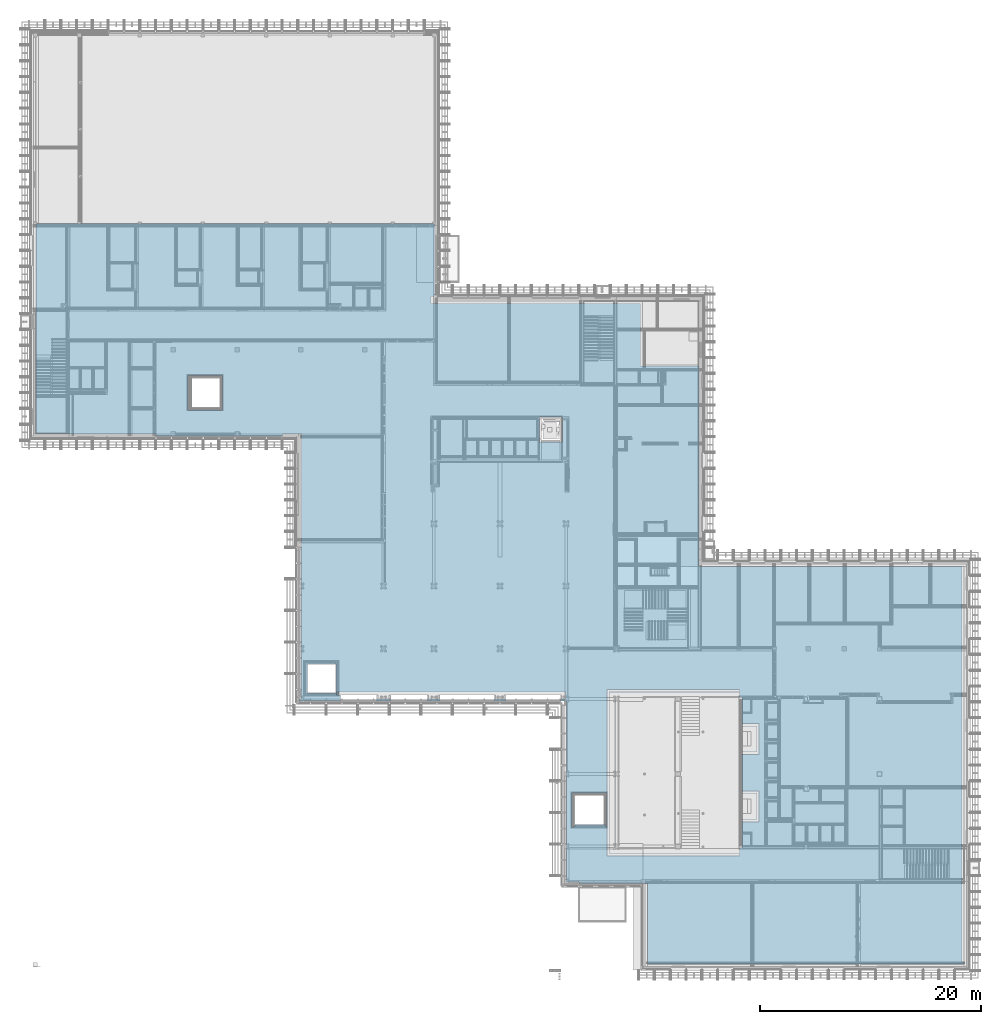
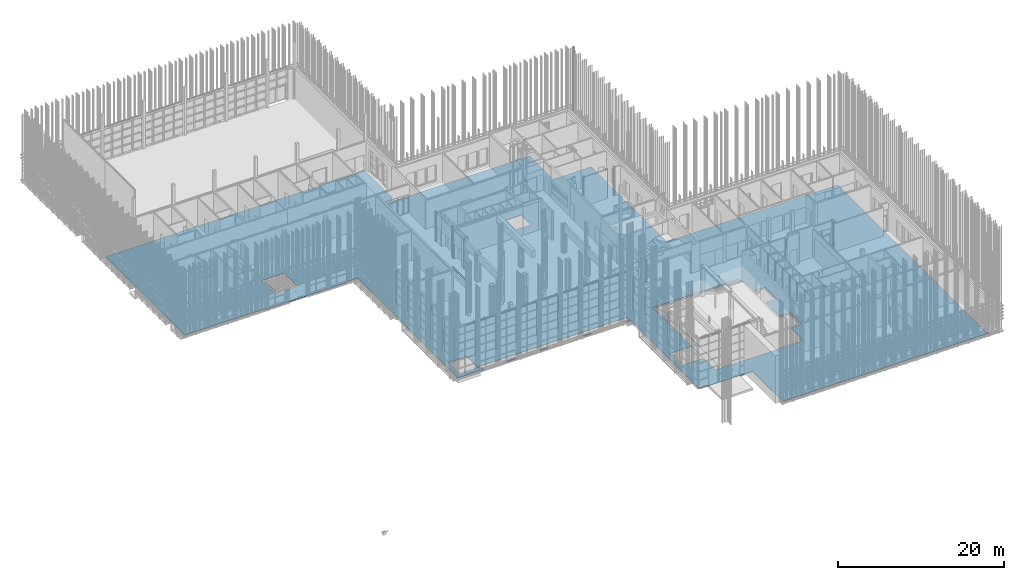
# One storey, part 168 of 260: 1 building element part, 1 element without a shape of its own.
"""IFC2X3 building model written with IfcOpenShell, lengths in millimetres."""

import ifcopenshell
import ifcopenshell.guid

model = None  # the IFC model being written
_history = None  # IfcOwnerHistory: only IFC2X3 demands one
_inside = {}  # id of a spatial element -> (the spatial element, [elements in it])
_under = {}  # id of a project, library or spatial element -> (it, [spatial elements below it])
_declared = {}  # id of a project -> (the project, [libraries it declares])
_typed = {}  # id of a type object -> (the type object, [elements of that type])
_made_of = {}  # id of a material, layer set ... -> (it, [elements and type objects made of it])


def new_model(schema):
    """Start an empty IFC model of exactly this schema.

    Asked for "IFC4X3", IfcOpenShell would pick the latest addendum, in which some entities
    have other attributes; the version numbers below select the first issue.
    IFC2X3 requires an IfcOwnerHistory on every rooted entity: one is made here for all.
    """
    global model, _history
    if schema == "IFC4X3":
        model = ifcopenshell.file(schema_version=(4, 3, 0, 0))
    else:
        model = ifcopenshell.file(schema=schema)
    _inside.clear()
    _under.clear()
    _declared.clear()
    _typed.clear()
    _made_of.clear()
    _history = None
    if model.schema == "IFC2X3":
        org = make("IfcOrganization", Name="unknown")
        user = make(
            "IfcPersonAndOrganization",
            ThePerson=make("IfcPerson", FamilyName="unknown"),
            TheOrganization=org,
        )
        app = make(
            "IfcApplication",
            ApplicationDeveloper=org,
            Version="unknown",
            ApplicationFullName="unknown",
            ApplicationIdentifier="unknown",
        )
        _history = make(
            "IfcOwnerHistory",
            OwningUser=user,
            OwningApplication=app,
            ChangeAction="ADDED",
            CreationDate=0,
        )
    return model


def make(cls, **values):
    """One entity of the class cls with the attributes given. An attribute that is None is left unset."""
    return model.create_entity(
        cls, **{name: value for name, value in values.items() if value is not None}
    )


def entity(cls, *values):
    """Any entity or typed value of the class cls, its attributes in the order of the schema. None: left unset."""
    e = model.create_entity(cls)
    for i, value in enumerate(values):
        if value is not None:
            e[i] = value
    return e


def rooted(cls, **values):
    """An entity with a GlobalId (a new one), such as an element, a storey or a relation."""
    return make(cls, GlobalId=ifcopenshell.guid.new(), OwnerHistory=_history, **values)


def si_unit(unit_type, name, prefix=None):
    """IfcSIUnit, for example si_unit("LENGTHUNIT", "METRE", prefix="MILLI")."""
    return make("IfcSIUnit", UnitType=unit_type, Prefix=prefix, Name=name)


def converted_unit(unit_type, name, factor, base, dimensions=None, offset=None):
    """IfcConversionBasedUnit, such as the inch: factor (a typed value) times the base unit."""
    return make(
        "IfcConversionBasedUnit"
        if offset is None
        else "IfcConversionBasedUnitWithOffset",
        ConversionOffset=offset,
        Dimensions=None
        if dimensions is None
        else entity("IfcDimensionalExponents", *dimensions),
        UnitType=unit_type,
        Name=name,
        ConversionFactor=make(
            "IfcMeasureWithUnit", ValueComponent=factor, UnitComponent=base
        ),
    )


def derived_unit(unit_type, elements):
    """IfcDerivedUnit: a product of units, each with its exponent."""
    return make(
        "IfcDerivedUnit",
        Elements=[
            make("IfcDerivedUnitElement", Unit=unit, Exponent=power)
            for unit, power in elements
        ],
        UnitType=unit_type,
    )


def money_unit(currency):
    """IfcMonetaryUnit."""
    return make("IfcMonetaryUnit", Currency=currency)


def assignment(units):
    """IfcUnitAssignment: the units of a project."""
    return None if units is None else make("IfcUnitAssignment", Units=units)


def point(xyz):
    """IfcCartesianPoint."""
    return None if xyz is None else make("IfcCartesianPoint", Coordinates=xyz)


def direction(xyz):
    """IfcDirection."""
    return None if xyz is None else make("IfcDirection", DirectionRatios=xyz)


def frame(location, z_axis=None, x_axis=None):
    """IfcAxis2Placement3D, a coordinate frame: its origin and axes. An axis left out is left unset."""
    return make(
        "IfcAxis2Placement3D",
        Location=point(location),
        Axis=direction(z_axis),
        RefDirection=direction(x_axis),
    )


def origin_with_axes():
    """The frame at (0, 0, 0) with the z axis (0, 0, 1) and the x axis (1, 0, 0) written out."""
    return frame((0.0, 0.0, 0.0), z_axis=(0.0, 0.0, 1.0), x_axis=(1.0, 0.0, 0.0))


def place(relative_to, where):
    """IfcLocalPlacement: puts the frame where relative to a parent placement (None: the world)."""
    return make(
        "IfcLocalPlacement", PlacementRelTo=relative_to, RelativePlacement=where
    )


def context(
    kind, dimensions, precision=None, world=None, true_north=None, identifier=None
):
    """IfcGeometricRepresentationContext, for example the 3D "Model" context."""
    return make(
        "IfcGeometricRepresentationContext",
        ContextIdentifier=identifier,
        ContextType=kind,
        CoordinateSpaceDimension=dimensions,
        Precision=precision,
        WorldCoordinateSystem=world,
        TrueNorth=true_north,
    )


def subcontext(parent, identifier, kind, view, scale=None):
    """IfcGeometricRepresentationSubContext, for example "Body" below "Model"."""
    return make(
        "IfcGeometricRepresentationSubContext",
        ContextIdentifier=identifier,
        ContextType=kind,
        ParentContext=parent,
        TargetScale=scale,
        TargetView=view,
    )


def project(units=None, contexts=None):
    """IfcProject with its units and contexts."""
    return rooted(
        "IfcProject",
        Name="project",
        RepresentationContexts=contexts,
        UnitsInContext=assignment(units),
    )


def spatial(cls, under=None, at=None, **own):
    """A site, building, storey or space (cls), placed at a placement, below another one or the project."""
    s = rooted(cls, ObjectPlacement=at, **own)
    if under is not None:
        _under.setdefault(under.id(), (under, []))[1].append(s)
    return s


def faces_of(points, faces, orient=None, outer=None):
    """IfcFace entities. A face is a list of loops; a loop is a list of indices into points, from 0.

    orient and outer hold one flag for each loop. By default every Orientation is true, the
    first loop of a face is its IfcFaceOuterBound and the others are IfcFaceBound.
    """
    made = []
    for i, loops in enumerate(faces):
        bounds = []
        for j, loop in enumerate(loops):
            is_outer = j == 0 if outer is None else outer[i][j]
            bounds.append(
                make(
                    "IfcFaceOuterBound" if is_outer else "IfcFaceBound",
                    Bound=make("IfcPolyLoop", Polygon=[points[k] for k in loop]),
                    Orientation=True if orient is None else orient[i][j],
                )
            )
        made.append(make("IfcFace", Bounds=bounds))
    return made


def faceted_brep(points, faces, orient=None, outer=None, voids=None):
    """IfcFacetedBrep: a solid bounded by flat faces; with voids (closed shells), ...WithVoids."""
    shared = [point(p) for p in points]
    hull = make("IfcClosedShell", CfsFaces=faces_of(shared, faces, orient, outer))
    if voids is None:
        return make("IfcFacetedBrep", Outer=hull)
    return make(
        "IfcFacetedBrepWithVoids",
        Outer=hull,
        Voids=[
            make(cls, CfsFaces=faces_of(shared, fs, o, b)) for cls, fs, o, b in voids
        ],
    )


def shape(context_of_items, identifier, shape_type, items):
    """IfcShapeRepresentation: the items that make up one representation, for example the "Body"."""
    return make(
        "IfcShapeRepresentation",
        ContextOfItems=context_of_items,
        RepresentationIdentifier=identifier,
        RepresentationType=shape_type,
        Items=items,
    )


def material(Name=None, Category=None):
    """IfcMaterial."""
    return make("IfcMaterial", Name=Name, Category=Category)


def made_of(thing, what):
    """Note that an element or type object is made of a material, layer set ...; save() writes the relation."""
    if what is not None:
        _made_of.setdefault(what.id(), (what, []))[1].append(thing)
    return thing


def type_object(cls, material=None, **own):
    """A type object (cls), such as IfcWallType, which elements share."""
    return made_of(rooted(cls, **own), material)


def element(
    cls,
    number,
    at=None,
    inside=None,
    cuts=None,
    type_object=None,
    material=None,
    context=None,
    identifier="Body",
    shape_type=None,
    held_by="IfcProductDefinitionShape",
    body=None,
    shapes=None,
    **own,
):
    """One element of the class cls, such as IfcWall. Its Tag is "e" and its number.

    at: its placement. inside: the storey or other place that contains it. cuts: it is an
    opening in that element (IfcRelVoidsElement). A single representation is given by context,
    identifier, shape_type and body (its items); several are given by shapes. held_by: the class
    of the entity that holds the representations. save() writes the other relations.
    """
    e = rooted(cls, Tag="e%d" % number, ObjectPlacement=at, **own)
    if body is not None:
        shapes = [shape(context, identifier, shape_type, body)]
    if shapes is not None:
        e.Representation = make(held_by, Representations=shapes)
    if inside is not None:
        _inside.setdefault(inside.id(), (inside, []))[1].append(e)
    if cuts is not None:
        rooted(
            "IfcRelVoidsElement", RelatingBuildingElement=cuts, RelatedOpeningElement=e
        )
    if type_object is not None:
        _typed.setdefault(type_object.id(), (type_object, []))[1].append(e)
    return made_of(e, material)


def aggregate(whole, parts):
    """IfcRelAggregates: a whole, such as a stair, and the parts it consists of."""
    return rooted("IfcRelAggregates", RelatingObject=whole, RelatedObjects=parts)


def save(model, path):
    """Write the relations noted so far, then the file.

    IfcRelAggregates (storeys below a building ...), IfcRelContainedInSpatialStructure (elements
    in a storey), IfcRelDefinesByType, IfcRelAssociatesMaterial and IfcRelDeclares: one each for
    every whole, place, type object, material and project.
    """
    for whole, parts in _under.values():
        aggregate(whole, parts)
    for where, things in _inside.values():
        rooted(
            "IfcRelContainedInSpatialStructure",
            RelatedElements=things,
            RelatingStructure=where,
        )
    for kind, things in _typed.values():
        rooted("IfcRelDefinesByType", RelatedObjects=things, RelatingType=kind)
    for what, things in _made_of.values():
        rooted("IfcRelAssociatesMaterial", RelatedObjects=things, RelatingMaterial=what)
    for by, libraries in _declared.values():
        rooted("IfcRelDeclares", RelatingContext=by, RelatedDefinitions=libraries)
    model.write(path)


model = new_model("IFC2X3")

# Units and contexts
model_context = context("Model", 3, precision=0.01, world=origin_with_axes(), true_north=direction((0.0, 1.0)))
body_context = subcontext(model_context, "Body", "Model", "MODEL_VIEW")
ifc_project = project(units=[si_unit("LENGTHUNIT", "METRE", prefix="MILLI"), si_unit("AREAUNIT", "SQUARE_METRE"), si_unit("VOLUMEUNIT", "CUBIC_METRE"), converted_unit("PLANEANGLEUNIT", "DEGREE", entity("IfcPlaneAngleMeasure", 0.0174532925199), si_unit("PLANEANGLEUNIT", "RADIAN"), dimensions=[0, 0, 0, 0, 0, 0, 0]), money_unit("EUR"), converted_unit("TIMEUNIT", "Year", entity("IfcTimeMeasure", 31556926.0), si_unit("TIMEUNIT", "SECOND"), dimensions=[0, 0, 1, 0, 0, 0, 0]), si_unit("MASSUNIT", "GRAM", prefix="KILO"), si_unit("THERMODYNAMICTEMPERATUREUNIT", "DEGREE_CELSIUS"), si_unit("LUMINOUSINTENSITYUNIT", "LUMEN"), si_unit("ENERGYUNIT", "JOULE", prefix="MEGA"), derived_unit("THERMALCONDUCTANCEUNIT", [(si_unit("POWERUNIT", "WATT"), 1), (si_unit("LENGTHUNIT", "METRE"), -1), (si_unit("THERMODYNAMICTEMPERATUREUNIT", "KELVIN"), -1)]), derived_unit("SPECIFICHEATCAPACITYUNIT", [(si_unit("ENERGYUNIT", "JOULE"), 1), (si_unit("MASSUNIT", "GRAM", prefix="KILO"), -1), (si_unit("THERMODYNAMICTEMPERATUREUNIT", "KELVIN"), -1)]), derived_unit("MASSDENSITYUNIT", [(si_unit("MASSUNIT", "GRAM", prefix="KILO"), 1), (si_unit("VOLUMEUNIT", "CUBIC_METRE"), -1)])], contexts=[model_context])

# Site, building, storey
site_placement = place(None, origin_with_axes())
site = spatial("IfcSite", under=ifc_project, at=site_placement, Name="Kolde pst 67a", CompositionType="ELEMENT")
building_placement = place(site_placement, origin_with_axes())
building = spatial("IfcBuilding", under=site, at=building_placement, Name="Riigigümnaasium", CompositionType="ELEMENT")
storey_placement = place(building_placement, origin_with_axes())
storey = spatial("IfcBuildingStorey", under=building, at=storey_placement, Name="1. korrus", CompositionType="ELEMENT", Elevation=0.0)

# Slab, building element part
slab_type = type_object("IfcSlabType", Name="PP-RBM-10/1_EPS 200 500", PredefinedType="NOTDEFINED")
slab_placement = place(storey_placement, frame((266.322784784, 67249.9971514, 0.0), z_axis=(0.0, 0.0, 1.0), x_axis=(1.0, 0.0, 0.0)))
slab = element("IfcSlab", 1, at=slab_placement, inside=storey, type_object=slab_type, Name="Põrand pinnasel", PredefinedType="NOTDEFINED")
ifc_material = material(Name="_TÄIDE - tasandus-/tugevduskiht, pinnasesse tambitud killustik E=80MPa, kiilutud fr 4/16")
building_element_part_placement = place(slab_placement, origin_with_axes())
building_element_part = element("IfcBuildingElementPart", 2, at=building_element_part_placement, material=ifc_material, Name="_TÄIDE - tasandus-/tugevduskiht, pinnasesse tambitud killustik E=80MPa, kiilutud fr 4/16", context=body_context, shape_type="Brep", body=[
    faceted_brep([(27557.7759921, -43000.0263019, -350.2), (27368.5095656, -43000.0263019, -350.2), (27368.5095656, -43000.026299, -330.092447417), (27531.5095656, -43000.0206928, -330.1), (27531.5095656, -43000.0206929, -300.2), (27557.7759921, -43000.0207002, -300.2), (23799.9457899, -43209.7267572, -350.2), (23799.9460972, -42999.9781126, -350.2), (23973.6799494, -42999.980095, -350.2), (23973.6799494, -29299.5005252, -350.2), (23999.9463759, -29299.500562, -350.2), (23999.9463759, -19050.0166275, -350.2), (22288.5650026, -19050.0163206, -350.2), (22288.5650026, -19210.0163206, -350.2), (10868.5385943, -19210.0163206, -350.2), (10868.5385943, -19050.0164764, -350.2), (2999.88406448, -19050.0165838, -350.2), (2999.88406628, -19009.9992035, -350.2), (0.0, -19010.7371507, -350.2), (0.0, 0.0, -350.2), (36039.9429015, 0.0, -350.2), (36039.9416692, -6609.939523, -350.2), (35713.7338936, -6609.939523, -350.2), (35713.7338936, -7209.939523, -350.2), (54697.6592908, -7209.939523, -350.2), (54697.6592908, -12732.9970931, -350.2), (54697.6592908, -12882.9970931, -350.2), (59999.9377357, -12882.9970931, -350.2), (59999.9377357, -31009.9974516, -350.2), (83773.7339872, -31009.9974516, -350.2), (83773.7339872, -66810.0545954, -350.2), (83999.9167207, -66810.0545954, -350.2), (83999.9167207, -67009.9971514, -350.2), (55329.9241436, -67009.9971514, -350.2), (55329.9251795, -59729.9852703, -350.2), (49105.2284207, -59729.9962674, -350.2), (49105.2303604, -59560.0076119, -350.2), (47983.4761046, -59559.9948118, -350.2), (47983.6626713, -43209.9991185, -350.2), (47799.9291214, -43209.997022, -350.2), (47436.9477703, -43209.9971514, -350.2), (47436.9477703, -43000.0263029, -350.2), (47902.308394, -43000.0263029, -350.2), (47902.308394, -42400.2966898, -350.2), (27368.5095656, -42400.296694, -350.2), (27557.7759921, -43209.7267572, -350.2), (51902.3668468, -56961.3396806, -350.2), (63663.580611, -56961.3396842, -350.2), (63663.580611, -56470.0352098, -350.2), (63889.4805108, -56470.0352098, -350.2), (63889.4805108, -54083.5279399, -350.199997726), (65306.4705112, -54083.4916902, -350.199999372), (65377.1811854, -54083.4898848, -350.199995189), (65377.0997606, -51376.5069474, -350.199995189), (65306.3890864, -51376.5087637, -350.199999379), (63889.4803919, -51376.54509, -350.199997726), (63889.4798183, -47983.4414526, -350.199997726), (65306.2871425, -47983.3989204, -350.200000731), (65376.9978197, -47983.3967966, -350.199995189), (65376.9164632, -45276.4500272, -350.199995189), (65306.205789, -45276.4521529, -350.199999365), (63889.4797343, -45276.4946732, -350.199997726), (63889.4805108, -42900.0006175, -350.2), (63663.580611, -42899.9970244, -350.2), (63663.580611, -42408.69255, -350.2), (51902.3668468, -42408.6925531, -350.2), (51690.1765105, -57173.5300165, -350.199998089), (51760.8871877, -57173.5300183, -350.200000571), (63663.580611, -57173.5300203, -350.200000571), (63663.580611, -56961.3979874, -350.2), (51902.3085435, -56961.3979869, -350.200000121), (51902.3085422, -42408.634246, -350.199998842), (63663.580611, -42408.6342468, -350.2), (63663.580611, -42196.5022139, -350.200000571), (51760.8871877, -42196.5022159, -350.200000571), (51690.1765105, -42196.5022168, -350.199998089), (47634.9291054, -19779.9971915, -350.2), (47634.9291054, -17479.9971915, -350.2), (45534.9291024, -17479.9971915, -350.2), (45534.9291024, -19779.9971915, -350.2), (48475.6670287, -54648.0161939, -350.2), (48485.6670287, -54648.0161939, -350.2), (48485.6670287, -54638.0161939, -350.2), (48585.6670287, -54638.0161939, -350.2), (48585.6670287, -54538.0161939, -350.2), (48588.6670287, -54538.0161939, -350.2), (48588.6670287, -54535.0161939, -350.2), (48748.6670287, -54535.0161939, -350.2), (48748.6670287, -51775.0161939, -350.2), (48774.9334552, -51775.0161939, -350.2), (48774.9334552, -54375.0161939, -350.2), (51374.9334552, -54375.0161939, -350.2), (51508.6670287, -54375.0161939, -350.2), (51508.6670287, -54535.0161939, -350.2), (51511.6670287, -54535.0161939, -350.2), (51511.6670287, -54538.0161939, -350.2), (51611.6670287, -54538.0161939, -350.2), (51611.6670287, -54638.0161939, -350.2), (51621.6670287, -54638.0161939, -350.2), (51621.6670287, -51502.0161939, -350.2), (51611.6670287, -51502.0161939, -350.2), (48485.6670287, -51502.0161939, -350.2), (48475.6670287, -51502.0161939, -350.2), (13725.6777342, -13742.0095232, -350.2), (13725.6777342, -16888.0095232, -350.2), (13735.6777342, -16888.0095232, -350.2), (16871.6777342, -16888.0095232, -350.2), (16871.6777342, -16878.0095232, -350.2), (16871.6777342, -13742.0095232, -350.2), (16861.6777342, -13742.0095232, -350.2), (13735.6777342, -13742.0095232, -350.2), (24550.0004112, -39859.9971514, -350.2), (24550.0004112, -42459.9971514, -350.2), (27150.0004112, -42459.9971514, -350.2), (27150.0004112, -39859.9971514, -350.2), (27368.5095656, -42400.2966952, -330.100008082), (27368.5095656, -42550.296692, -330.098117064), (27368.5095656, -42649.7267552, -330.099993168), (27531.5095656, -42649.7267552, -330.1), (27531.5095656, -42649.7267552, -300.2), (23799.9460972, -42999.9781126, -300.2), (23799.9457899, -43209.7267572, -300.2), (27557.7759921, -43209.7267572, -300.2), (27168.5095656, -42649.7267552, -300.2), (27168.5095656, -42400.2966936, -300.2), (47902.308394, -42400.2966894, -300.2), (47902.308394, -43000.0263036, -300.2), (47436.9477703, -43000.0261755, -300.2), (47436.9477703, -43209.9971514, -300.2), (47799.9291214, -43209.997022, -300.2), (47983.6626713, -43209.9991185, -300.2), (47983.4761046, -59559.9948118, -300.2), (49105.2303604, -59560.0076119, -300.2), (49105.2284207, -59729.9962674, -300.2), (55329.9251795, -59729.9852703, -300.2), (55329.9241436, -67009.9971514, -300.2), (83999.9167207, -67009.9971514, -300.2), (83999.9167207, -66810.0545954, -300.2), (83773.7339872, -66810.0545954, -300.2), (83773.7339872, -31009.9974516, -300.2), (59999.9377357, -31009.9974516, -300.2), (59999.9377357, -12882.9970931, -300.2), (54697.6592908, -12882.9970931, -300.2), (54697.6592908, -12732.9970931, -300.2), (54697.6592908, -7209.939523, -300.2), (35713.7338936, -7209.939523, -300.2), (35713.7338936, -6609.939523, -300.2), (36039.9416692, -6609.939523, -300.2), (36039.9429015, 0.0, -300.2), (0.0, 0.0, -300.2), (0.0, -19010.7371507, -300.2), (2999.88406628, -19009.9992035, -300.2), (2999.88406448, -19050.0165838, -300.2), (10868.5385943, -19050.0164764, -300.2), (10868.5385943, -19210.0163206, -300.2), (22288.5650026, -19210.0163206, -300.2), (22288.5650026, -19050.0163206, -300.2), (23999.9463759, -19050.0166275, -300.2), (23999.9463759, -29299.500562, -300.2), (23973.6799494, -29299.5005252, -300.2), (23973.6799494, -42999.980095, -300.2), (63663.580611, -57011.3220155, -300.2), (51852.3845167, -57011.3220094, -300.2), (51852.3845167, -42358.7102245, -300.2), (63663.580611, -42358.7102187, -300.2), (63663.580611, -42899.9970244, -300.2), (63889.4805108, -42900.0006175, -300.2), (63889.4797506, -45226.4946732, -300.199995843), (65356.2042852, -45226.4506544, -300.200000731), (65426.9149604, -45226.4485318, -300.200000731), (65426.9993223, -48033.3952901, -300.200000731), (65356.2886425, -48033.397422, -300.200003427), (63889.4798267, -48033.4414526, -300.199995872), (63889.4803835, -51326.54509, -300.199995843), (65356.3875814, -51326.5074841, -300.200000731), (65427.0982566, -51326.5056709, -300.200000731), (65427.1826893, -54133.4886003, -300.200000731), (65356.4720142, -54133.4904089, -300.200000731), (63889.4805108, -54133.5279399, -300.199995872), (63889.4805108, -56470.0352098, -300.2), (63663.580611, -56470.0352098, -300.2), (63663.580611, -57223.5300202, -300.199998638), (51710.8871889, -57223.5300202, -300.200001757), (51640.1765105, -57223.5300109, -300.200003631), (51640.1765105, -42146.5022242, -300.200003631), (51710.8871889, -42146.502214, -300.200001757), (63663.580611, -42146.502214, -300.199998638), (63663.580611, -42217.2128892, -300.199998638), (63663.580611, -42358.6342468, -300.2), (51852.3085429, -42358.6342469, -300.199999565), (51852.3085439, -57011.3979864, -300.200000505), (63663.580611, -57011.3979874, -300.2), (63663.580611, -57152.819345, -300.199998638), (47634.9291054, -19779.9971915, -300.2), (45534.9291024, -19779.9971915, -300.2), (45534.9291024, -17479.9971915, -300.2), (47634.9291054, -17479.9971915, -300.2), (48485.6670287, -54648.0161939, -300.2), (48475.6670287, -54648.0161939, -300.2), (48475.6670287, -51502.0161939, -300.2), (48485.6670287, -51502.0161939, -300.2), (51611.6670287, -51502.0161939, -300.2), (51621.6670287, -51502.0161939, -300.2), (51621.6670287, -54638.0161939, -300.2), (51611.6670287, -54638.0161939, -300.2), (51611.6670287, -54538.0161939, -300.2), (51511.6670287, -54538.0161939, -300.2), (51511.6670287, -54535.0161939, -300.2), (51508.6670287, -54535.0161939, -300.2), (51508.6670287, -54375.0161939, -300.2), (51374.9334552, -54375.0161939, -300.2), (48774.9334552, -54375.0161939, -300.2), (48774.9334552, -51775.0161939, -300.2), (48748.6670287, -51775.0161939, -300.2), (48748.6670287, -54535.0161939, -300.2), (48588.6670287, -54535.0161939, -300.2), (48588.6670287, -54538.0161939, -300.2), (48585.6670287, -54538.0161939, -300.2), (48585.6670287, -54638.0161939, -300.2), (48485.6670287, -54638.0161939, -300.2), (16871.6777342, -16878.0095232, -300.2), (16871.6777342, -16888.0095232, -300.2), (13735.6777342, -16888.0095232, -300.2), (13725.6777342, -16888.0095232, -300.2), (13725.6777342, -13742.0095232, -300.2), (13735.6777342, -13742.0095232, -300.2), (16861.6777342, -13742.0095232, -300.2), (16871.6777342, -13742.0095232, -300.2), (27150.0004112, -42459.9971514, -300.2), (24550.0004112, -42459.9971514, -300.2), (24550.0004112, -39859.9971514, -300.2), (27150.0004112, -39859.9971514, -300.2), (27168.5095656, -42400.2966952, -330.100008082), (27168.5095656, -42550.2966919, -330.1), (27168.5095656, -42649.7267552, -330.1)], [[[0, 1, 2, 3, 4, 5]], [[6, 7, 8, 9, 10, 11, 12, 13, 14, 15, 16, 17, 18, 19, 20, 21, 22, 23, 24, 25, 26, 27, 28, 29, 30, 31, 32, 33, 34, 35, 36, 37, 38, 39, 40, 41, 42, 43, 44, 1, 0, 45], [46, 47, 48, 49, 50, 51, 52, 53, 54, 55, 56, 57, 58, 59, 60, 61, 62, 63, 64, 65], [66, 67, 68, 69, 70, 71, 72, 73, 74, 75], [76, 77, 78, 79], [80, 81, 82, 83, 84, 85, 86, 87, 88, 89, 90, 91, 92, 93, 94, 95, 96, 97, 98, 99, 100, 101, 102], [103, 104, 105, 106, 107, 108, 109, 110], [111, 112, 113, 114]], [[2, 1, 44, 115, 116, 117]], [[3, 2, 117, 118]], [[4, 3, 118, 119]], [[120, 121, 122, 5, 4, 119, 123, 124, 125, 126, 127, 128, 129, 130, 131, 132, 133, 134, 135, 136, 137, 138, 139, 140, 141, 142, 143, 144, 145, 146, 147, 148, 149, 150, 151, 152, 153, 154, 155, 156, 157, 158, 159, 160], [161, 162, 163, 164, 165, 166, 167, 168, 169, 170, 171, 172, 173, 174, 175, 176, 177, 178, 179, 180], [181, 182, 183, 184, 185, 186, 187, 188, 189, 190, 191, 192], [193, 194, 195, 196], [197, 198, 199, 200, 201, 202, 203, 204, 205, 206, 207, 208, 209, 210, 211, 212, 213, 214, 215, 216, 217, 218, 219], [220, 221, 222, 223, 224, 225, 226, 227], [228, 229, 230, 231]], [[45, 0, 5, 122]], [[7, 6, 121, 120]], [[8, 7, 120, 160]], [[8, 160, 159, 9]], [[10, 9, 159, 158]], [[11, 10, 158, 157]], [[11, 157, 156, 12]], [[155, 13, 12, 156]], [[14, 13, 155, 154]], [[15, 14, 154, 153]], [[16, 15, 153, 152]], [[16, 152, 151, 17]], [[18, 17, 151, 150]], [[19, 18, 150, 149]], [[19, 149, 148, 20]], [[21, 20, 148, 147]], [[22, 21, 147, 146]], [[23, 22, 146, 145]], [[24, 23, 145, 144]], [[25, 24, 144, 143]], [[26, 25, 143, 142]], [[27, 26, 142, 141]], [[28, 27, 141, 140]], [[29, 28, 140, 139]], [[138, 30, 29, 139]], [[31, 30, 138, 137]], [[32, 31, 137, 136]], [[33, 32, 136, 135]], [[34, 33, 135, 134]], [[133, 35, 34, 134]], [[36, 35, 133, 132]], [[37, 36, 132, 131]], [[37, 131, 130, 38]], [[39, 38, 130, 129]], [[40, 39, 129, 128]], [[41, 40, 128, 127]], [[42, 41, 127, 126]], [[42, 126, 125, 43]], [[115, 44, 43, 125, 124, 232]], [[6, 45, 122, 121]], [[47, 46, 162, 161]], [[48, 47, 161, 180]], [[49, 48, 180, 179]], [[49, 179, 178, 50]], [[50, 178, 177, 51]], [[51, 177, 176, 52]], [[176, 175, 53, 52]], [[54, 53, 175, 174]], [[55, 54, 174, 173]], [[172, 56, 55, 173]], [[57, 56, 172, 171]], [[58, 57, 171, 170]], [[59, 58, 170, 169]], [[60, 59, 169, 168]], [[61, 60, 168, 167]], [[62, 61, 167, 166]], [[62, 166, 165, 63]], [[64, 63, 165, 164]], [[65, 64, 164, 163]], [[162, 46, 65, 163]], [[67, 66, 183, 182]], [[68, 67, 182, 181]], [[69, 68, 181, 192, 191]], [[70, 69, 191, 190]], [[70, 190, 189, 71]], [[72, 71, 189, 188]], [[73, 72, 188, 187, 186]], [[74, 73, 186, 185]], [[75, 74, 185, 184]], [[183, 66, 75, 184]], [[77, 76, 193, 196]], [[78, 77, 196, 195]], [[79, 78, 195, 194]], [[76, 79, 194, 193]], [[81, 80, 198, 197]], [[82, 81, 197, 219]], [[83, 82, 219, 218]], [[84, 83, 218, 217]], [[85, 84, 217, 216]], [[86, 85, 216, 215]], [[87, 86, 215, 214]], [[87, 214, 213, 88]], [[89, 88, 213, 212]], [[90, 89, 212, 211]], [[91, 90, 211, 210]], [[91, 210, 209, 92]], [[93, 92, 209, 208]], [[94, 93, 208, 207]], [[95, 94, 207, 206]], [[96, 95, 206, 205]], [[97, 96, 205, 204]], [[98, 97, 204, 203]], [[98, 203, 202, 99]], [[100, 99, 202, 201]], [[200, 101, 100, 201]], [[102, 101, 200, 199]], [[198, 80, 102, 199]], [[104, 103, 224, 223]], [[105, 104, 223, 222]], [[106, 105, 222, 221]], [[107, 106, 221, 220]], [[108, 107, 220, 227]], [[109, 108, 227, 226]], [[110, 109, 226, 225]], [[103, 110, 225, 224]], [[112, 111, 230, 229]], [[113, 112, 229, 228]], [[114, 113, 228, 231]], [[111, 114, 231, 230]], [[233, 234, 117, 116, 115, 232]], [[123, 119, 118, 117, 234]], [[234, 233, 232, 124, 123]]]),
    faceted_brep([(30816.9513198, -43000.0581823, -350.2), (30816.9513198, -43209.7267557, -350.2), (30816.9513198, -43209.7267557, -300.2), (30816.9513198, -43000.0581823, -300.2), (30940.6848933, -43000.0595942, -350.2), (30940.6848933, -43000.0263021, -350.2), (31926.6750961, -43000.0263021, -350.2), (31926.6750961, -43000.0708452, -350.2), (32076.6750961, -43000.0725568, -350.2), (32076.6750961, -43000.0263021, -350.2), (32102.9415226, -43000.0263021, -350.2), (32102.9415226, -43209.7267557, -350.2), (32102.9415226, -43209.7267557, -300.2), (32102.9415226, -43000.021952, -300.2), (32076.6750961, -43000.0219448, -300.2), (32076.6750961, -43000.0725568, -300.2), (31926.6750961, -43000.0708452, -300.2), (31926.6750961, -43000.0219035, -300.2), (30940.6848933, -43000.0216319, -300.2), (30940.6848933, -43000.0595942, -300.2)], [[[0, 1, 2, 3]], [[1, 0, 4, 5, 6, 7, 8, 9, 10, 11]], [[2, 1, 11, 12]], [[3, 2, 12, 13, 14, 15, 16, 17, 18, 19]], [[4, 0, 3, 19]], [[5, 4, 19, 18]], [[5, 18, 17, 6]], [[16, 7, 6, 17]], [[8, 7, 16, 15]], [[9, 8, 15, 14]], [[10, 9, 14, 13]], [[12, 11, 10, 13]]]),
    faceted_brep([(35366.9477703, -43209.7267557, -350.2), (35366.9477703, -43000.1101015, -350.2), (35490.6813438, -43000.1115134, -350.2), (35490.6813438, -43000.0263023, -350.2), (36356.6715466, -43000.0263023, -350.2), (36356.6715466, -43000.1213951, -350.2), (36506.6715466, -43000.1231067, -350.2), (36506.6715466, -43000.0263023, -350.2), (36532.9379731, -43000.0263023, -350.2), (36532.9379731, -43209.7267557, -350.2), (35366.9477703, -43209.7267557, -300.2), (35366.9477703, -43000.1101015, -300.2), (35490.6813438, -43000.1115134, -300.2), (35490.6813438, -43000.0228851, -300.2), (36356.6715466, -43000.0231236, -300.2), (36356.6715466, -43000.1213951, -300.2), (36506.6715466, -43000.1231067, -300.2), (36506.6715466, -43000.023165, -300.2), (36532.9379731, -43000.0231722, -300.2), (36532.9379731, -43209.7267557, -300.2)], [[[0, 1, 2, 3, 4, 5, 6, 7, 8, 9]], [[1, 0, 10, 11]], [[2, 1, 11, 12]], [[2, 12, 13, 3]], [[4, 3, 13, 14]], [[15, 5, 4, 14]], [[6, 5, 15, 16]], [[6, 16, 17, 7]], [[8, 7, 17, 18]], [[19, 9, 8, 18]], [[0, 9, 19, 10]], [[12, 11, 10, 19, 18, 17, 16, 15, 14, 13]]]),
    faceted_brep([(42530.9379731, -43209.9971514, -350.2), (41436.9477703, -43209.9971514, -350.2), (41436.9477703, -43000.1793652, -350.2), (41560.6813438, -43000.1807771, -350.2), (41560.6813438, -43000.0263026, -350.2), (42354.6715466, -43000.0263026, -350.2), (42354.6715466, -43000.1898371, -350.2), (42504.6715466, -43000.1915488, -350.2), (42504.6715466, -43000.0263026, -350.2), (42530.9379731, -43000.0263026, -350.2), (42530.9379731, -43209.9971514, -300.2), (41436.9477703, -43209.9971514, -300.2), (41436.9477703, -43000.1793652, -300.2), (41560.6813438, -43000.1807771, -300.2), (41560.6813438, -43000.024557, -300.2), (42354.6715466, -43000.0247757, -300.2), (42354.6715466, -43000.1898371, -300.2), (42504.6715466, -43000.1915488, -300.2), (42504.6715466, -43000.024817, -300.2), (42530.9379731, -43000.0248242, -300.2)], [[[0, 1, 2, 3, 4, 5, 6, 7, 8, 9]], [[1, 0, 10, 11]], [[2, 1, 11, 12]], [[3, 2, 12, 13]], [[3, 13, 14, 4]], [[4, 14, 15, 5]], [[6, 5, 15, 16]], [[7, 6, 16, 17]], [[8, 7, 17, 18]], [[9, 8, 18, 19]], [[0, 9, 19, 10]], [[12, 11, 10, 19, 18, 17, 16, 15, 14, 13]]]),
    faceted_brep([(63889.4797909, -47821.3094159, -300.199999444), (65214.8609129, -47821.269632, -300.200001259), (65214.7893018, -45438.5869242, -300.199998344), (63889.4796813, -45438.6267083, -300.2), (65214.7133316, -45438.6629063, -300.2), (65214.7849378, -47821.1936558, -300.2), (65073.2981368, -47821.197906, -300.200002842), (63889.4797909, -47821.2334457, -300.199999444), (65164.8594103, -47771.2711337, -350.20000117), (63889.4797824, -47771.309416, -350.199999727), (65164.7908049, -45488.5884244, -350.199998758), (63889.4796649, -45488.6850124, -350.2), (65164.7325043, -45488.6467353, -350.2), (65164.8011061, -47771.2128275, -350.2), (65023.296636, -47771.2170771, -350.200001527), (63889.4797824, -47771.2511142, -350.199999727)], [[[0, 1, 2, 3, 4, 5, 6, 7]], [[8, 1, 0, 9]], [[1, 8, 10, 2]], [[2, 11, 3]], [[3, 12, 4]], [[4, 12, 13, 5]], [[14, 15, 7, 6, 5, 13]], [[9, 0, 7, 15]], [[8, 9, 15, 14, 13, 12, 11, 10]], [[11, 2, 10]], [[12, 3, 11]]]),
    faceted_brep([(65165.0427707, -53871.363281, -350.199998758), (65215.0442743, -53921.3620015, -300.199998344), (63889.4805108, -53921.3959027, -300.2), (63889.4805108, -53871.3959031, -350.2), (65214.9726032, -51538.6431351, -300.199998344), (65164.9741076, -51588.6444165, -350.199998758), (63889.4804193, -51538.6771272, -300.2), (63889.4804193, -51538.753098, -300.2), (65073.4098346, -51538.7227417, -300.199997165), (65214.896633, -51538.7191168, -300.2), (65214.9682995, -53921.2860237, -300.2), (65073.4815012, -53921.2896457, -300.199997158), (63889.4805108, -53921.3199324, -300.2), (63889.4805108, -53871.3376012, -350.2), (65023.479998, -53871.3085947, -350.199998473), (65164.9844666, -53871.3049734, -350.2), (65164.9158069, -51588.7027272, -350.2), (65023.4113383, -51588.7063537, -350.199998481), (63889.4804278, -51588.7354292, -350.2), (63889.4804278, -51588.6771269, -350.2)], [[[0, 1, 2, 3]], [[4, 1, 0, 5]], [[1, 4, 6, 7, 8, 9, 10, 11, 12, 2]], [[2, 12, 13, 3]], [[5, 0, 3, 13, 14, 15, 16, 17, 18, 19]], [[4, 5, 19, 6]], [[18, 7, 6, 19]], [[17, 16, 9, 8, 7, 18]], [[10, 9, 16, 15]], [[11, 10, 15, 14, 13, 12]]]),
    faceted_brep([(52393.6713209, -56470.0352098, -300.199999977), (52419.9377639, -56470.0352098, -300.2), (52419.9377639, -42899.9970244, -300.2), (52393.6713209, -42899.9970244, -300.199999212), (52419.9377639, -56470.0352098, -350.2), (52393.6713209, -56470.0352098, -350.199999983), (52419.9377639, -42899.9970244, -350.2), (52393.6713209, -42899.9970244, -350.19999931)], [[[0, 1, 2, 3]], [[4, 1, 0, 5]], [[1, 4, 6, 2]], [[7, 3, 2, 6]], [[5, 0, 3, 7]], [[4, 5, 7, 6]]]),
    faceted_brep([(14024.9441607, -14015.0095232, -350.2), (14024.9441607, -14015.0095232, -300.2), (14024.9441607, -16615.0095232, -300.2), (14024.9441607, -16615.0095232, -350.2), (13998.6777342, -14015.0095232, -300.2), (13998.6777342, -14015.0095232, -350.2), (13998.6777342, -16615.0095232, -300.2), (13998.6777342, -16615.0095232, -350.2)], [[[0, 1, 2, 3]], [[4, 1, 0, 5]], [[1, 4, 6, 2]], [[6, 7, 3, 2]], [[5, 0, 3, 7]], [[4, 5, 7, 6]]]),
])
aggregate(slab, [building_element_part])

save(model, "model.ifc")
